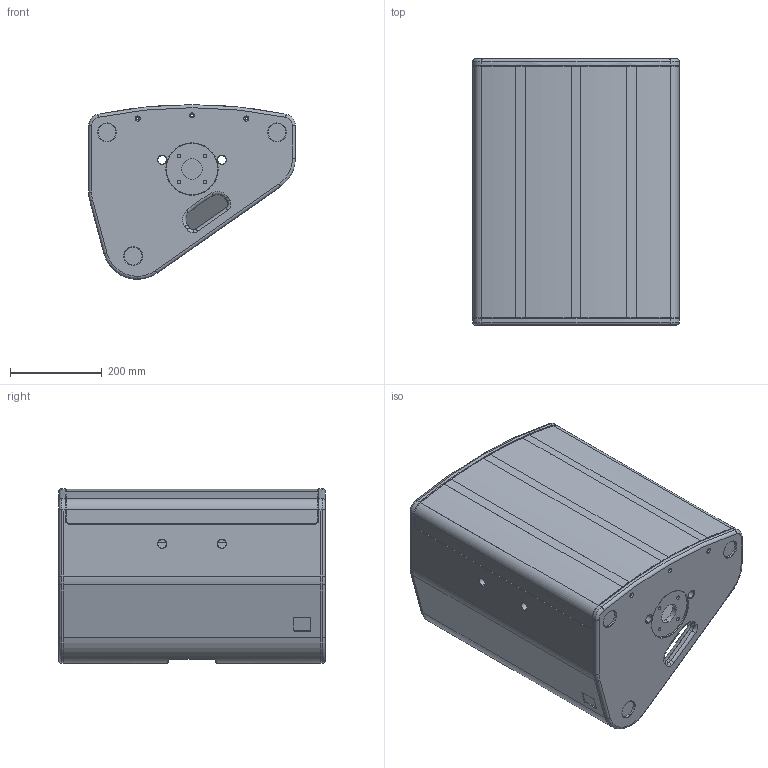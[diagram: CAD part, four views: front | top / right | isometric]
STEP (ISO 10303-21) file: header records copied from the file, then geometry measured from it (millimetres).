
FILE_DESCRIPTION (( 'STEP AP203' ), '1' );
FILE_NAME ('SEEBURG_X8.STEP', '2018-09-20T08:44:09', ( 'Michl' ), ( '' ), 'SwSTEP 2.0', 'SolidWorks 2009', '' );
FILE_SCHEMA (( 'CONFIG_CONTROL_DESIGN' ));
Length unit declared in the file: millimetre
Products named in the file (1): SEEBURG_X8
Bounding box: 450 x 580 x 380 mm (x, y, z)
Volume: 11056429.2 mm3; surface area: 2249043.8 mm2
Topology: 8 solids, 8 shells, 518 faces, 1313 edges, 816 vertices
Faces by surface type: cylinder 226, plane 180, cone 70, torus 36, bspline 6
Entity records: 16215 total; most frequent: CARTESIAN_POINT 3059, DIRECTION 2905, ORIENTED_EDGE 2622, EDGE_CURVE 1311, AXIS2_PLACEMENT_3D 1097, VERTEX_POINT 816, VECTOR 711, LINE 711
